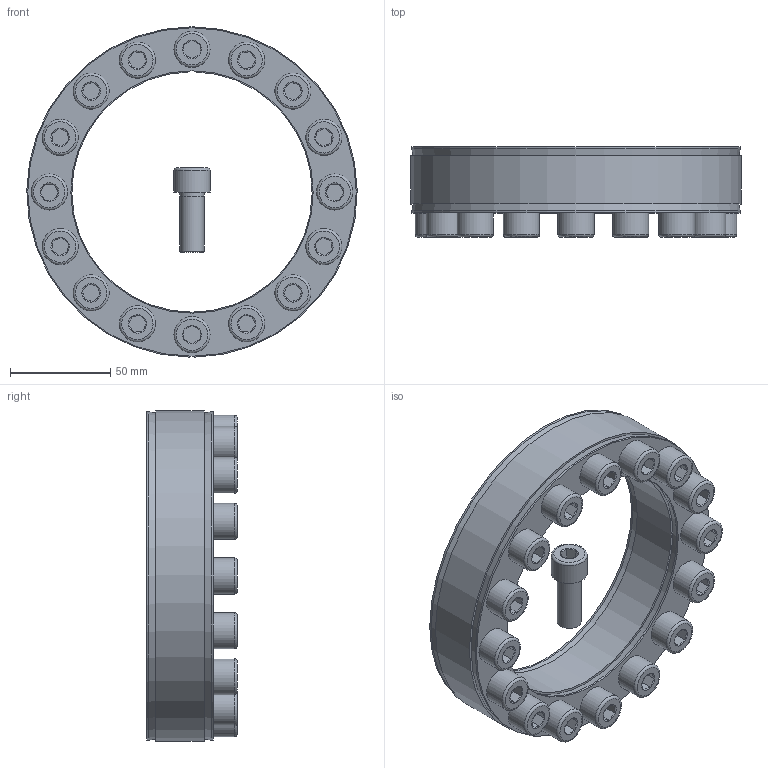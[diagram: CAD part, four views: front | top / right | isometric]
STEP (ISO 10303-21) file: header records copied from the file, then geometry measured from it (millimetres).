
FILE_DESCRIPTION( ( 'Unknown' ), '1' );
FILE_NAME( 'C:/Dokumente und Einstellungen/Sven/Desktop/homepage/cad - homepage/KBS40/KBS 40 - 120 x 165.stp', 'Unknown', ( 'Unknown' ), ( 'Unknown' ), 'XStep 1.0', 'Unknown', ' ' );
FILE_SCHEMA( ( 'automotive_design' ) );
Length unit declared in the file: millimetre
Products named in the file (18): Assem1; KBS 40 120x165; ISO 4762 M12x30; ISO 4762 M12x30-oa0; ISO 4762 M12x30-oa1; ISO 4762 M12x30-oa2; ISO 4762 M12x30-oa3; ISO 4762 M12x30-oa4; ISO 4762 M12x30-oa5; ISO 4762 M12x30-oa6; ISO 4762 M12x30-oa7; ISO 4762 M12x30-oa8; ISO 4762 M12x30-oa9; ISO 4762 M12x30-oa10; ISO 4762 M12x30-oa11; ISO 4762 M12x30-oa12; ISO 4762 M12x30-oa13; ISO 4762 M12x30-oa14
Bounding box: 164.99 x 45 x 164.99 mm (x, y, z)
Volume: 727467.9 mm3; surface area: 214058 mm2
Topology: 34 solids, 34 shells, 892 faces, 1644 edges, 948 vertices
Faces by surface type: plane 424, cone 232, cylinder 172, torus 64
Full cylindrical faces by diameter (mm): 11 x32, 12 x96, 18 x32, 121 x4, 164 x4
Entity records: 10927 total; most frequent: CARTESIAN_POINT 2292, DIRECTION 1808, ORIENTED_EDGE 1304, AXIS2_PLACEMENT_3D 788, EDGE_LOOP 680, EDGE_CURVE 652, FACE_OUTER_BOUND 562, ADVANCED_FACE 446
